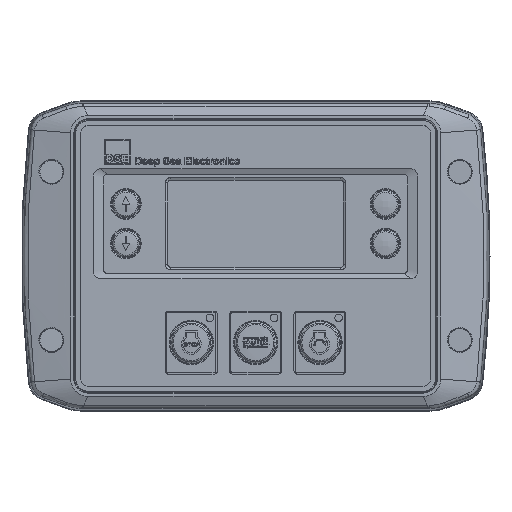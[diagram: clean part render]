
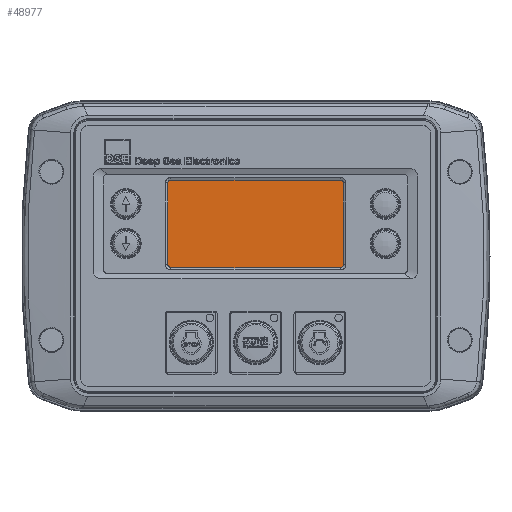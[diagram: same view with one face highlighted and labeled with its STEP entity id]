
A CAD part, top view. The second image highlights one B-rep face of the part: STEP entity #48977.
In plain terms, the highlighted planar face has unit normal (0, 0, 1).
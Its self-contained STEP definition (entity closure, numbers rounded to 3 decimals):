
#441 = ORIENTED_EDGE ( 'NONE', *, *, #26637, .T. ) ;
#3994 = CARTESIAN_POINT ( 'NONE',  ( -34.3, 30.711, 11.85 ) ) ;
#4681 = VERTEX_POINT ( 'NONE', #24790 ) ;
#4686 = VERTEX_POINT ( 'NONE', #53192 ) ;
#5884 = CARTESIAN_POINT ( 'NONE',  ( 34.3, 29.55, 11.85 ) ) ;
#6095 = DIRECTION ( 'NONE',  ( 1., 0., 0. ) ) ;
#7283 = VERTEX_POINT ( 'NONE', #53239 ) ;
#7864 = CIRCLE ( 'NONE', #57619, 1.161 ) ;
#8979 = DIRECTION ( 'NONE',  ( 0., -1., 0. ) ) ;
#11601 = VERTEX_POINT ( 'NONE', #50708 ) ;
#12558 = VERTEX_POINT ( 'NONE', #27829 ) ;
#14011 = CARTESIAN_POINT ( 'NONE',  ( -35.461, -3.55, 11.85 ) ) ;
#14068 = VECTOR ( 'NONE', #18629, 1000. ) ;
#14796 = EDGE_CURVE ( 'NONE', #7283, #18156, #36857, .T. ) ;
#15344 = CARTESIAN_POINT ( 'NONE',  ( 34.3, -3.55, 11.85 ) ) ;
#15693 = CARTESIAN_POINT ( 'NONE',  ( -34.3, -4.711, 11.85 ) ) ;
#18156 = VERTEX_POINT ( 'NONE', #14011 ) ;
#18625 = FACE_OUTER_BOUND ( 'NONE', #56874, .T. ) ;
#18629 = DIRECTION ( 'NONE',  ( 1., 0., 0. ) ) ;
#19858 = EDGE_CURVE ( 'NONE', #4681, #46226, #44675, .T. ) ;
#20688 = DIRECTION ( 'NONE',  ( 0., 1., 0. ) ) ;
#21289 = CARTESIAN_POINT ( 'NONE',  ( 35.461, -3.55, 11.85 ) ) ;
#23718 = ORIENTED_EDGE ( 'NONE', *, *, #24766, .T. ) ;
#24766 = EDGE_CURVE ( 'NONE', #11601, #12558, #42820, .T. ) ;
#24790 = CARTESIAN_POINT ( 'NONE',  ( 34.3, 30.711, 11.85 ) ) ;
#24844 = VECTOR ( 'NONE', #26131, 1000. ) ;
#26069 = ORIENTED_EDGE ( 'NONE', *, *, #35876, .T. ) ;
#26131 = DIRECTION ( 'NONE',  ( -1., 0., 0. ) ) ;
#26188 = LINE ( 'NONE', #36636, #14068 ) ;
#26379 = AXIS2_PLACEMENT_3D ( 'NONE', #53922, #40502, #49685 ) ;
#26637 = EDGE_CURVE ( 'NONE', #18156, #34405, #7864, .T. ) ;
#27755 = AXIS2_PLACEMENT_3D ( 'NONE', #5884, #37662, #6095 ) ;
#27829 = CARTESIAN_POINT ( 'NONE',  ( 35.461, -3.55, 11.85 ) ) ;
#28344 = ORIENTED_EDGE ( 'NONE', *, *, #58429, .T. ) ;
#32415 = EDGE_CURVE ( 'NONE', #4686, #4681, #53805, .T. ) ;
#32588 = DIRECTION ( 'NONE',  ( 1., 0., 0. ) ) ;
#33174 = DIRECTION ( 'NONE',  ( 0., 0., 1. ) ) ;
#34405 = VERTEX_POINT ( 'NONE', #15693 ) ;
#35597 = CIRCLE ( 'NONE', #26379, 1.161 ) ;
#35876 = EDGE_CURVE ( 'NONE', #46226, #7283, #35597, .T. ) ;
#36636 = CARTESIAN_POINT ( 'NONE',  ( 34.3, -4.711, 11.85 ) ) ;
#36857 = LINE ( 'NONE', #50348, #42578 ) ;
#37662 = DIRECTION ( 'NONE',  ( 0., 0., 1. ) ) ;
#39326 = DIRECTION ( 'NONE',  ( 0., 0., -1. ) ) ;
#39940 = CARTESIAN_POINT ( 'NONE',  ( 34.3, 30.711, 11.85 ) ) ;
#40502 = DIRECTION ( 'NONE',  ( 0., 0., 1. ) ) ;
#41708 = CARTESIAN_POINT ( 'NONE',  ( -34.3, -3.55, 11.85 ) ) ;
#42578 = VECTOR ( 'NONE', #8979, 1000. ) ;
#42820 = CIRCLE ( 'NONE', #53403, 1.161 ) ;
#43135 = CARTESIAN_POINT ( 'NONE',  ( 0., 0., 11.85 ) ) ;
#43325 = DIRECTION ( 'NONE',  ( -1., 0., 0. ) ) ;
#44675 = LINE ( 'NONE', #39940, #24844 ) ;
#46226 = VERTEX_POINT ( 'NONE', #3994 ) ;
#47086 = VECTOR ( 'NONE', #20688, 1000. ) ;
#47306 = DIRECTION ( 'NONE',  ( 0., 0., 1. ) ) ;
#48125 = PLANE ( 'NONE',  #56325 ) ;
#48977 = ADVANCED_FACE ( 'NONE', ( #18625 ), #48125, .F. ) ;
#49186 = LINE ( 'NONE', #21289, #47086 ) ;
#49288 = ORIENTED_EDGE ( 'NONE', *, *, #19858, .T. ) ;
#49685 = DIRECTION ( 'NONE',  ( 1., 0., 0. ) ) ;
#50348 = CARTESIAN_POINT ( 'NONE',  ( -35.461, -3.55, 11.85 ) ) ;
#50708 = CARTESIAN_POINT ( 'NONE',  ( 34.3, -4.711, 11.85 ) ) ;
#51923 = DIRECTION ( 'NONE',  ( 1., 0., 0. ) ) ;
#52250 = EDGE_CURVE ( 'NONE', #34405, #11601, #26188, .T. ) ;
#53192 = CARTESIAN_POINT ( 'NONE',  ( 35.461, 29.55, 11.85 ) ) ;
#53233 = ORIENTED_EDGE ( 'NONE', *, *, #52250, .T. ) ;
#53239 = CARTESIAN_POINT ( 'NONE',  ( -35.461, 29.55, 11.85 ) ) ;
#53403 = AXIS2_PLACEMENT_3D ( 'NONE', #15344, #47306, #51923 ) ;
#53805 = CIRCLE ( 'NONE', #27755, 1.161 ) ;
#53922 = CARTESIAN_POINT ( 'NONE',  ( -34.3, 29.55, 11.85 ) ) ;
#56325 = AXIS2_PLACEMENT_3D ( 'NONE', #43135, #39326, #43325 ) ;
#56874 = EDGE_LOOP ( 'NONE', ( #53233, #23718, #28344, #58680, #49288, #26069, #57617, #441 ) ) ;
#57617 = ORIENTED_EDGE ( 'NONE', *, *, #14796, .T. ) ;
#57619 = AXIS2_PLACEMENT_3D ( 'NONE', #41708, #33174, #32588 ) ;
#58429 = EDGE_CURVE ( 'NONE', #12558, #4686, #49186, .T. ) ;
#58680 = ORIENTED_EDGE ( 'NONE', *, *, #32415, .T. ) ;
